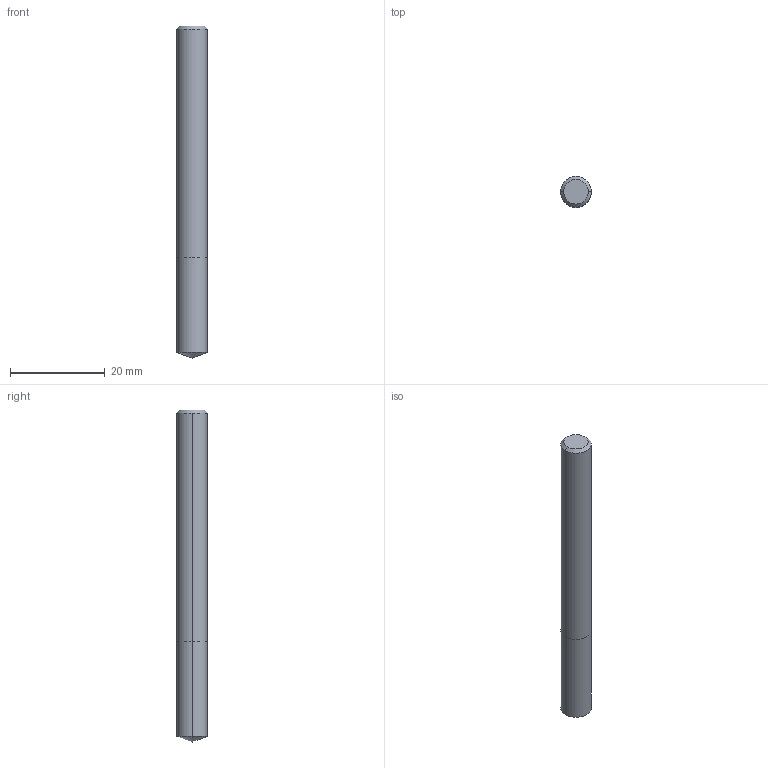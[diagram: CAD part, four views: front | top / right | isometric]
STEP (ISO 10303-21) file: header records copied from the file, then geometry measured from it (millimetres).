
FILE_DESCRIPTION (( 'STEP AP214' ), '1' );
FILE_NAME ('303.065.00_3D-model.step', '2022-02-19T15:56:09', ( '' ), ( '' ), 'SwSTEP 2.0', 'SolidWorks 2020', '' );
FILE_SCHEMA (( 'AUTOMOTIVE_DESIGN' ));
Length unit declared in the file: millimetre
Products named in the file (3): CUT-3D^Baugr36; NOCUT-3D^Baugr36; 303.065.00_3D-model
Assembly tree (2 placements, depth 2):
  303.065.00_3D-model
    CUT-3D^Baugr36
    NOCUT-3D^Baugr36
Bounding box: 6.5 x 6.5 x 70 mm (x, y, z)
Volume: 2292.6 mm3; surface area: 1531.8 mm2
Topology: 2 solids, 2 shells, 11 faces, 20 edges, 11 vertices
Faces by surface type: cone 4, cylinder 4, plane 3
Entity records: 380 total; most frequent: DIRECTION 66, CARTESIAN_POINT 48, ORIENTED_EDGE 36, AXIS2_PLACEMENT_3D 29, EDGE_CURVE 18, EDGE_LOOP 11, ADVANCED_FACE 11, FACE_OUTER_BOUND 11
